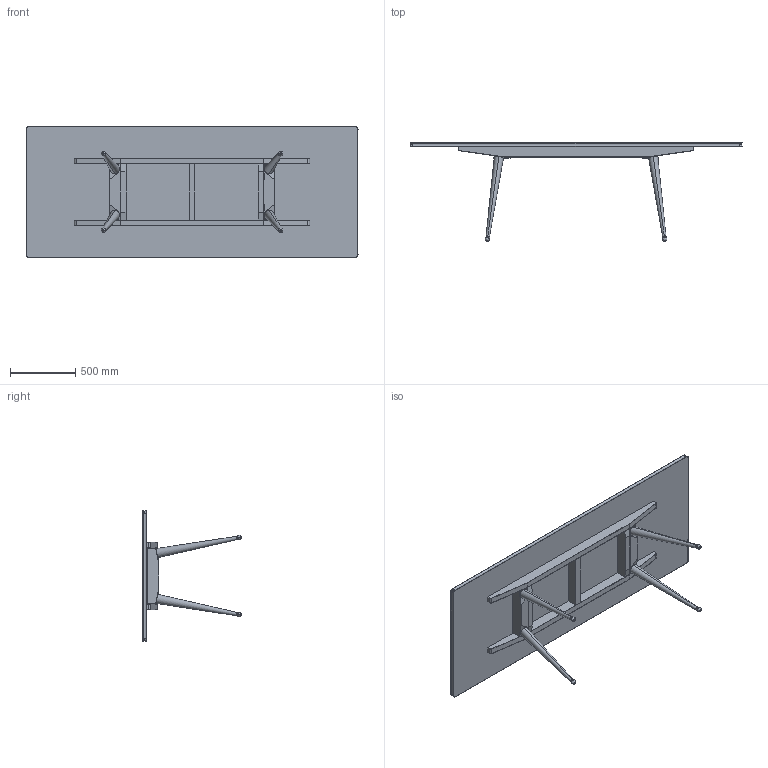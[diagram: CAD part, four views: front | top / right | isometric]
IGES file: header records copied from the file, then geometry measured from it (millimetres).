
Start section: SolidWorks IGES file using analytic representation for surfaces
Global section: file name: C:\Users\David.BDLE\Desktop\408L Tavli Table\408L Tavli Table_vd_mesa prmt.IGS; native system: SolidWorks 2016; preprocessor: SolidWorks 2016; author: David; date: 201126.113418; units: millimetre
Bounding box: 2540.42 x 754.32 x 999.17 mm (x, y, z)
Surface area: 6534503 mm2 (no closed solid volume)
Topology: 0 solids, 0 shells, 225 faces, 2077 edges, 2069 vertices
Faces by surface type: bspline 127, revolution 98
